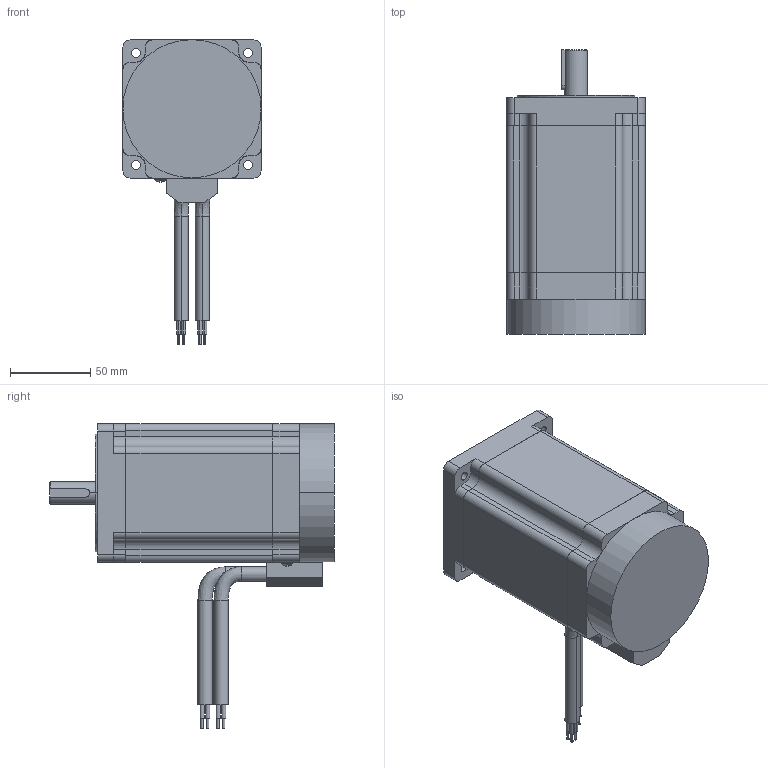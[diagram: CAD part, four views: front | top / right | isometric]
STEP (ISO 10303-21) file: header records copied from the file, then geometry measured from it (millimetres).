
FILE_DESCRIPTION((''),'2;1');
FILE_NAME('MT34HE50040E4VK_ASM','2022-07-01T16:38:48',('Edison'),(''),'CREO PARAMETRIC BY PTC INC, 2017260','CREO PARAMETRIC BY PTC INC, 2017260','');
FILE_SCHEMA(('CONFIG_CONTROL_DESIGN'));
Length unit declared in the file: millimetre
Products named in the file (10): NEMA34IPSTATOR_4; NEMA34IP65FRONTENDBELL_1; MT34HE31084E40_ASM_1_ASM; NEMA34STANDIP65FRONTENDBELL_4; ZHOU; BIANMAQI; XIANKUAI; XIANSHU; LUOSI; MT34HE50040E4VK_ASM
Assembly tree (10 placements, depth 3):
  MT34HE50040E4VK_ASM
    MT34HE31084E40_ASM_1_ASM
      NEMA34IPSTATOR_4
      NEMA34IP65FRONTENDBELL_1
    NEMA34STANDIP65FRONTENDBELL_4
    ZHOU
    BIANMAQI
    XIANKUAI
    XIANSHU  x2
    LUOSI
Bounding box: 86.3 x 177.3 x 189.66 mm (x, y, z)
Volume: 714026.2 mm3; surface area: 140511 mm2
Topology: 9 solids, 9 shells, 241 faces, 575 edges, 380 vertices
Faces by surface type: cylinder 127, plane 103, bspline 10, cone 1
Entity records: 6995 total; most frequent: CARTESIAN_POINT 1669, DIRECTION 1159, ORIENTED_EDGE 1014, EDGE_CURVE 507, AXIS2_PLACEMENT_3D 447, VERTEX_POINT 336, VECTOR 265, LINE 265
